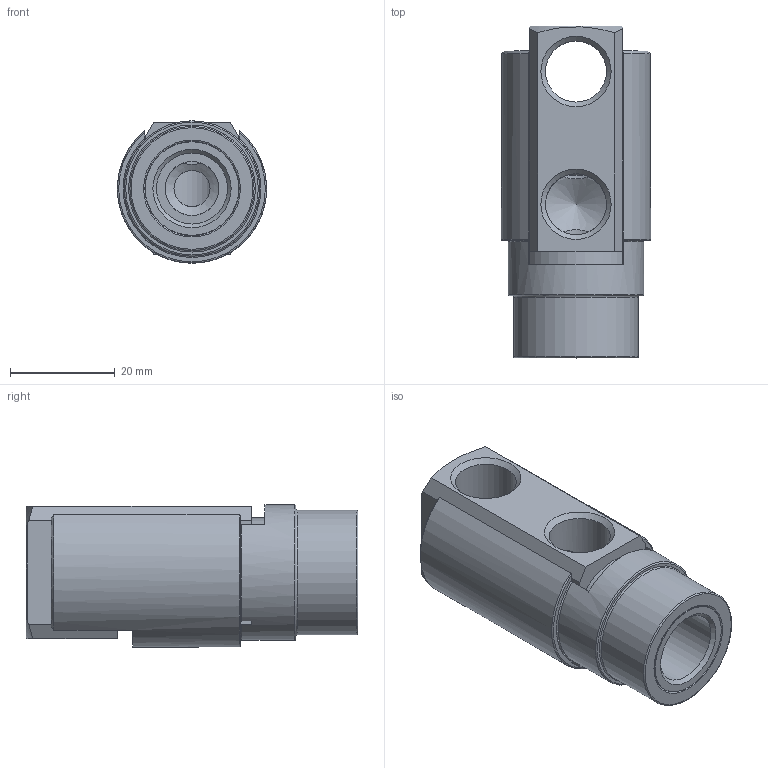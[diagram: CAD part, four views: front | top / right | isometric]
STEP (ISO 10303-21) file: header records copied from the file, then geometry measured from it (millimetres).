
FILE_DESCRIPTION(/* description */ (''),/* implementation_level */ '2;1');
FILE_NAME(/* name */ 'C:/Users/drich/Desktop/SC141H-4 v2.step',/* time_stamp */ '2020-01-04T15:15:16-06:00',/* author */ (''),/* organization */ (''),/* preprocessor_version */ 'ST-DEVELOPER v18',/* originating_system */ 'Autodesk Translation Framework v8.12.0.6',/* authorisation */ '');
FILE_SCHEMA (('AUTOMOTIVE_DESIGN { 1 0 10303 214 3 1 1 }'));
Length unit declared in the file: inch
Products named in the file (3): SC141H-4; SC141H-4 HEAD; SC141H-4 Sleeve
Assembly tree (2 placements, depth 2):
  SC141H-4
    SC141H-4 HEAD
    SC141H-4 Sleeve
Bounding box: 28.56 x 63.5 x 27.24 mm (x, y, z)
Volume: 24711.9 mm3; surface area: 15777.9 mm2
Topology: 2 solids, 2 shells, 62 faces, 181 edges, 123 vertices
Faces by surface type: plane 31, cylinder 15, cone 10, torus 6
Full cylindrical faces by diameter (mm): 6.909 x1, 10.312 x1, 11.668 x2, 13.589 x1, 17.907 x1, 18.034 x1, 21.057 x1, 23.8 x1, 25.908 x1
Entity records: 2339 total; most frequent: CARTESIAN_POINT 590, ORIENTED_EDGE 360, DIRECTION 357, EDGE_CURVE 180, AXIS2_PLACEMENT_3D 142, VERTEX_POINT 123, CIRCLE 75, LINE 73
